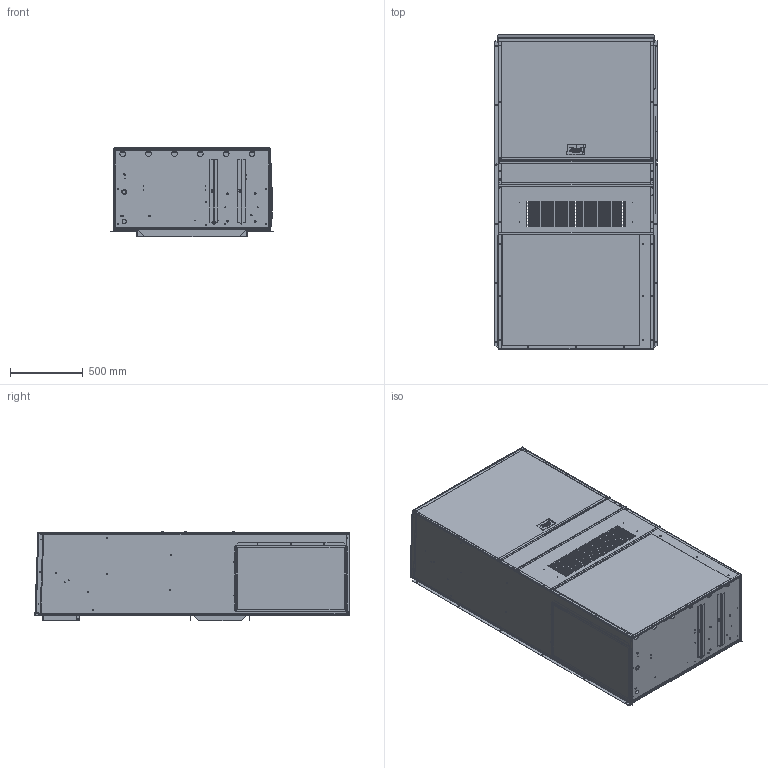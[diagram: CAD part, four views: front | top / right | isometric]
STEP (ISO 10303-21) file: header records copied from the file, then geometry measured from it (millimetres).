
FILE_DESCRIPTION (( 'STEP AP203' ), '1' );
FILE_NAME ('STEP_1000.STEP', '2016-06-22T15:47:48', ( '' ), ( '' ), 'SwSTEP 2.0', 'SolidWorks 2016', '' );
FILE_SCHEMA (( 'CONFIG_CONTROL_DESIGN' ));
Length unit declared in the file: inch
Products named in the file (1): STEP_1000
Bounding box: 1114.16 x 2156.46 x 613.07 mm (x, y, z)
Volume: 30227364.1 mm3; surface area: 21188037.9 mm2
Topology: 57 solids, 57 shells, 4057 faces, 10884 edges, 7022 vertices
Faces by surface type: plane 1824, cylinder 1205, torus 816, bspline 162, cone 28, sphere 22
Entity records: 163546 total; most frequent: CARTESIAN_POINT 59075, DIRECTION 21845, ORIENTED_EDGE 21748, EDGE_CURVE 10874, AXIS2_PLACEMENT_3D 8046, VERTEX_POINT 7020, VECTOR 5753, LINE 5753
